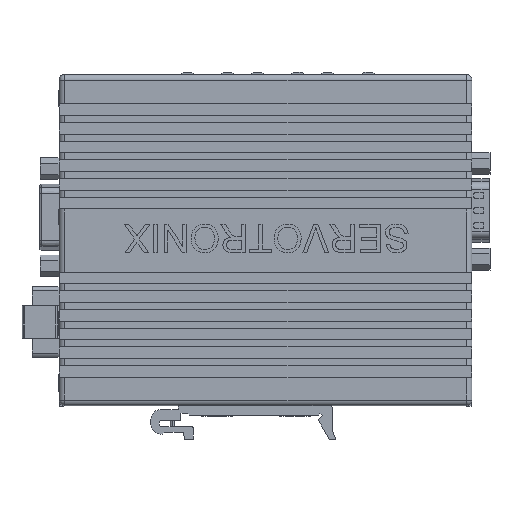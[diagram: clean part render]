
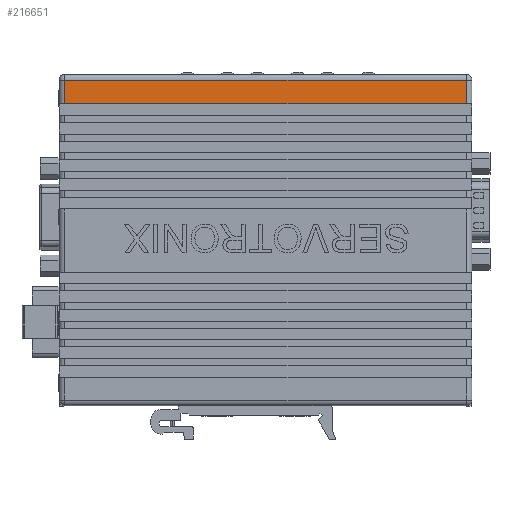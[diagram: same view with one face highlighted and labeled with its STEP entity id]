
A CAD part, front view. The second image highlights one B-rep face of the part: STEP entity #216651.
In plain terms, the highlighted planar face has unit normal (0, -1, 0).
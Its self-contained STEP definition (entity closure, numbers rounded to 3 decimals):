
#68440 = CARTESIAN_POINT ( 'NONE',  ( 0., 0., -7.5 ) ) ;
#68442 = DIRECTION ( 'NONE',  ( 1., 0., 0. ) ) ;
#68458 = CARTESIAN_POINT ( 'NONE',  ( 1.4, 0., -7.5 ) ) ;
#68460 = DIRECTION ( 'NONE',  ( 0., 0., -1. ) ) ;
#68463 = CARTESIAN_POINT ( 'NONE',  ( 0., 0., -1.4 ) ) ;
#68465 = DIRECTION ( 'NONE',  ( -1., 0., 0. ) ) ;
#68468 = CARTESIAN_POINT ( 'NONE',  ( 104.6, 0., 0. ) ) ;
#68470 = DIRECTION ( 'NONE',  ( 0., 0., 1. ) ) ;
#70114 = LINE ( 'NONE', #68440, #70115 ) ;
#70115 = VECTOR ( 'NONE', #68442, 1000. ) ;
#70124 = LINE ( 'NONE', #68458, #70125 ) ;
#70125 = VECTOR ( 'NONE', #68460, 1000. ) ;
#70126 = LINE ( 'NONE', #68463, #70127 ) ;
#70127 = VECTOR ( 'NONE', #68465, 1000. ) ;
#70128 = LINE ( 'NONE', #68468, #70129 ) ;
#70129 = VECTOR ( 'NONE', #68470, 1000. ) ;
#77149 = CARTESIAN_POINT ( 'NONE',  ( 1.4, 0., -1.4 ) ) ;
#77150 = CARTESIAN_POINT ( 'NONE',  ( 104.6, 0., -1.4 ) ) ;
#77155 = CARTESIAN_POINT ( 'NONE',  ( 1.4, 0., -7.5 ) ) ;
#77157 = CARTESIAN_POINT ( 'NONE',  ( 104.6, 0., -7.5 ) ) ;
#98515 = EDGE_LOOP ( 'NONE', ( #226321, #226325, #226329, #226333 ) ) ;
#169790 = EDGE_CURVE ( 'NONE', #232904, #232909, #70114, .T. ) ;
#169809 = EDGE_CURVE ( 'NONE', #232893, #232904, #70124, .T. ) ;
#169812 = EDGE_CURVE ( 'NONE', #232894, #232893, #70126, .T. ) ;
#169816 = EDGE_CURVE ( 'NONE', #232909, #232894, #70128, .T. ) ;
#190393 = PLANE ( 'NONE',  #199331 ) ;
#190419 = CARTESIAN_POINT ( 'NONE',  ( 0., 0., -85. ) ) ;
#190466 = DIRECTION ( 'NONE',  ( 0., -1., 0. ) ) ;
#190473 = DIRECTION ( 'NONE',  ( 0., 0., -1. ) ) ;
#198329 = FACE_OUTER_BOUND ( 'NONE', #98515, .T. ) ;
#199331 = AXIS2_PLACEMENT_3D ( 'NONE', #190419, #190466, #190473 ) ;
#216651 = ADVANCED_FACE ( 'NONE', ( #198329 ), #190393, .T. ) ;
#226321 = ORIENTED_EDGE ( 'NONE', *, *, #169812, .T. ) ;
#226325 = ORIENTED_EDGE ( 'NONE', *, *, #169809, .T. ) ;
#226329 = ORIENTED_EDGE ( 'NONE', *, *, #169790, .T. ) ;
#226333 = ORIENTED_EDGE ( 'NONE', *, *, #169816, .T. ) ;
#232893 = VERTEX_POINT ( 'NONE', #77149 ) ;
#232894 = VERTEX_POINT ( 'NONE', #77150 ) ;
#232904 = VERTEX_POINT ( 'NONE', #77155 ) ;
#232909 = VERTEX_POINT ( 'NONE', #77157 ) ;
